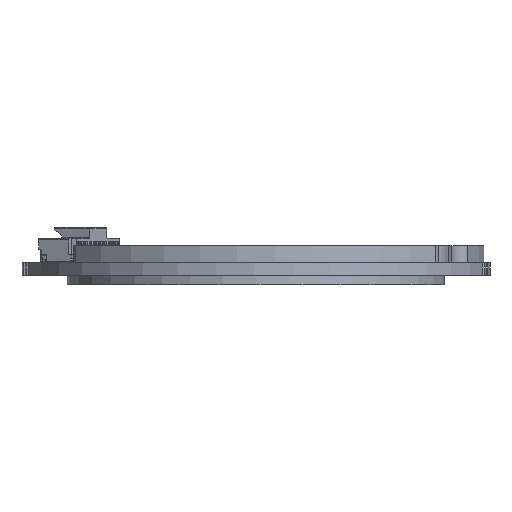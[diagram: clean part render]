
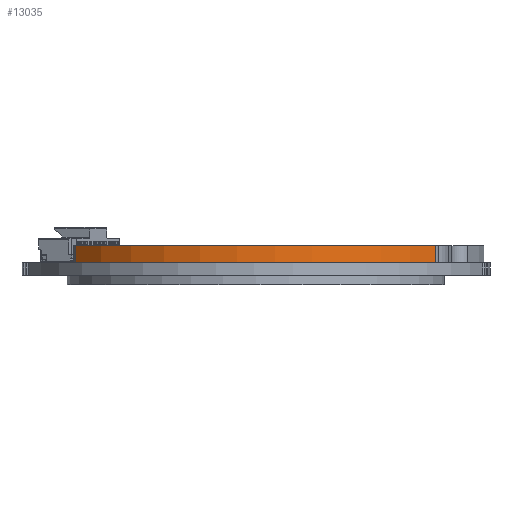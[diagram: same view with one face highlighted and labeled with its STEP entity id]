
A CAD part, front view. The second image highlights one B-rep face of the part: STEP entity #13035.
In plain terms, the highlighted cylindrical face has radius 30.25 mm (diameter 60.5 mm), a partial arc.
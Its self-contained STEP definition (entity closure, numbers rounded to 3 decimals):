
#1560 = CYLINDRICAL_SURFACE ( 'NONE', #68449, 30.25 ) ;
#7525 = FACE_OUTER_BOUND ( 'NONE', #66709, .T. ) ;
#8425 = EDGE_CURVE ( 'NONE', #90518, #51884, #12812, .T. ) ;
#8587 = VERTEX_POINT ( 'NONE', #18069 ) ;
#9480 = DIRECTION ( 'NONE',  ( -1., 0., 0. ) ) ;
#12812 = CIRCLE ( 'NONE', #33456, 30.25 ) ;
#12872 = VECTOR ( 'NONE', #54004, 1000. ) ;
#12951 = ORIENTED_EDGE ( 'NONE', *, *, #64247, .T. ) ;
#13035 = ADVANCED_FACE ( 'NONE', ( #7525 ), #1560, .T. ) ;
#18069 = CARTESIAN_POINT ( 'NONE',  ( 48.838, 6.377, 2.3 ) ) ;
#18941 = ORIENTED_EDGE ( 'NONE', *, *, #36124, .F. ) ;
#31424 = ORIENTED_EDGE ( 'NONE', *, *, #8425, .T. ) ;
#33456 = AXIS2_PLACEMENT_3D ( 'NONE', #88872, #58953, #97845 ) ;
#36124 = EDGE_CURVE ( 'NONE', #39233, #8587, #54420, .T. ) ;
#38923 = CARTESIAN_POINT ( 'NONE',  ( 1.162, 6.377, 0. ) ) ;
#39233 = VERTEX_POINT ( 'NONE', #50153 ) ;
#44772 = DIRECTION ( 'NONE',  ( 0., 0., 1. ) ) ;
#50153 = CARTESIAN_POINT ( 'NONE',  ( 1.162, 6.377, 2.3 ) ) ;
#51884 = VERTEX_POINT ( 'NONE', #75038 ) ;
#54004 = DIRECTION ( 'NONE',  ( 0., 0., -1. ) ) ;
#54420 = CIRCLE ( 'NONE', #67128, 30.25 ) ;
#58953 = DIRECTION ( 'NONE',  ( 0., 0., 1. ) ) ;
#63146 = CARTESIAN_POINT ( 'NONE',  ( 48.838, 6.377, 2.3 ) ) ;
#64247 = EDGE_CURVE ( 'NONE', #51884, #8587, #71153, .T. ) ;
#66709 = EDGE_LOOP ( 'NONE', ( #31424, #12951, #18941, #74251 ) ) ;
#67128 = AXIS2_PLACEMENT_3D ( 'NONE', #74682, #44772, #75169 ) ;
#67451 = CARTESIAN_POINT ( 'NONE',  ( 1.162, 6.377, 2.3 ) ) ;
#68449 = AXIS2_PLACEMENT_3D ( 'NONE', #92706, #77735, #9480 ) ;
#71153 = LINE ( 'NONE', #63146, #85778 ) ;
#74251 = ORIENTED_EDGE ( 'NONE', *, *, #87715, .T. ) ;
#74682 = CARTESIAN_POINT ( 'NONE',  ( 25., 25., 2.3 ) ) ;
#75038 = CARTESIAN_POINT ( 'NONE',  ( 48.838, 6.377, 0. ) ) ;
#75169 = DIRECTION ( 'NONE',  ( 1., 0., 0. ) ) ;
#77735 = DIRECTION ( 'NONE',  ( 0., 0., -1. ) ) ;
#78128 = DIRECTION ( 'NONE',  ( 0., 0., 1. ) ) ;
#81935 = LINE ( 'NONE', #67451, #12872 ) ;
#85778 = VECTOR ( 'NONE', #78128, 1000. ) ;
#87715 = EDGE_CURVE ( 'NONE', #39233, #90518, #81935, .T. ) ;
#88872 = CARTESIAN_POINT ( 'NONE',  ( 25., 25., 0. ) ) ;
#90518 = VERTEX_POINT ( 'NONE', #38923 ) ;
#92706 = CARTESIAN_POINT ( 'NONE',  ( 25., 25., 2.3 ) ) ;
#97845 = DIRECTION ( 'NONE',  ( 1., 0., 0. ) ) ;
